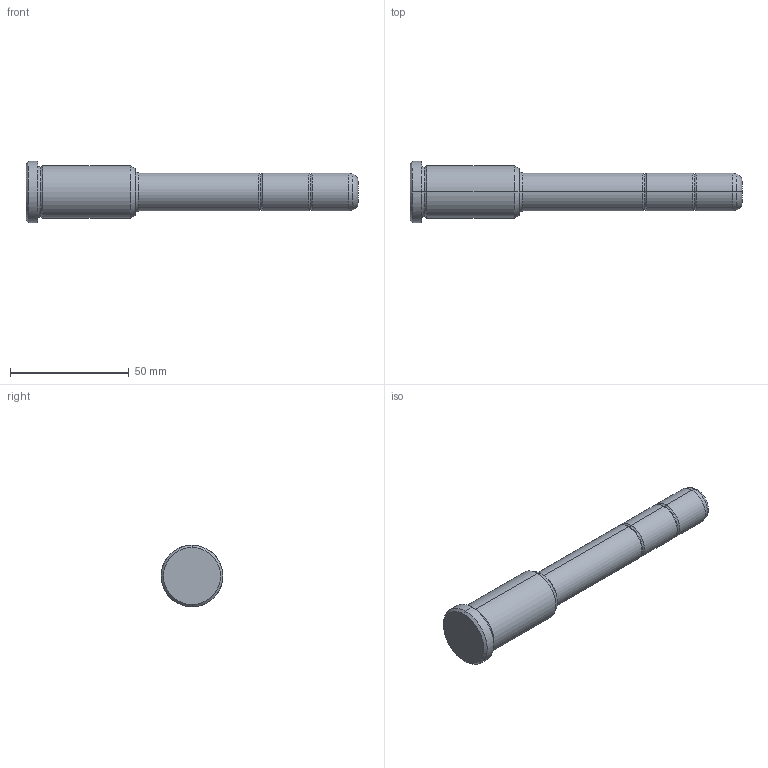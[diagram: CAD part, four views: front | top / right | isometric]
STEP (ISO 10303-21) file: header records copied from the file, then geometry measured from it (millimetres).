
FILE_DESCRIPTION(('CATIA V5 STEP Exchange'),'2;1');
FILE_NAME('C:\Users\Utente\Desktop\IO LAVORO\3D X SITO CF\X SITO\PLASTICA\351\351-16X46X140.stp','2021-08-18T11:20:41+00:00',('none'),('none'),'CATIA Version 5 Release 20 GA (IN-10)','CATIA V5 STEP AP203','none');
FILE_SCHEMA(('CONFIG_CONTROL_DESIGN'));
Length unit declared in the file: millimetre
Products named in the file (1): 351-16X46X140
Bounding box: 140 x 26 x 26 mm (x, y, z)
Volume: 36800.5 mm3; surface area: 8850.3 mm2
Topology: 1 solids, 1 shells, 36 faces, 102 edges, 70 vertices
Faces by surface type: torus 16, cylinder 10, cone 6, plane 4
Entity records: 1292 total; most frequent: CARTESIAN_POINT 321, ORIENTED_EDGE 204, DIRECTION 166, AXIS2_PLACEMENT_3D 115, EDGE_CURVE 102, CIRCLE 78, VERTEX_POINT 70, EDGE_LOOP 38
